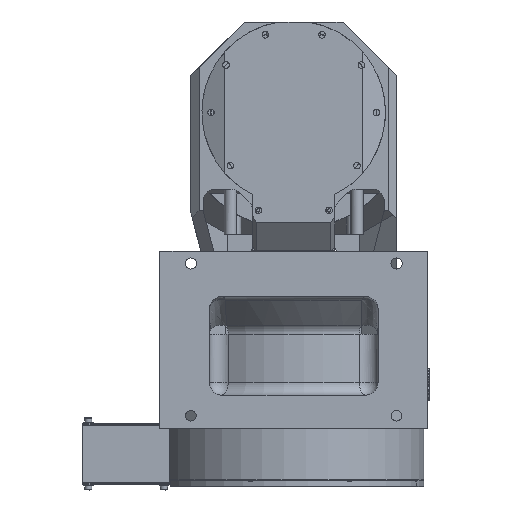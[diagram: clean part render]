
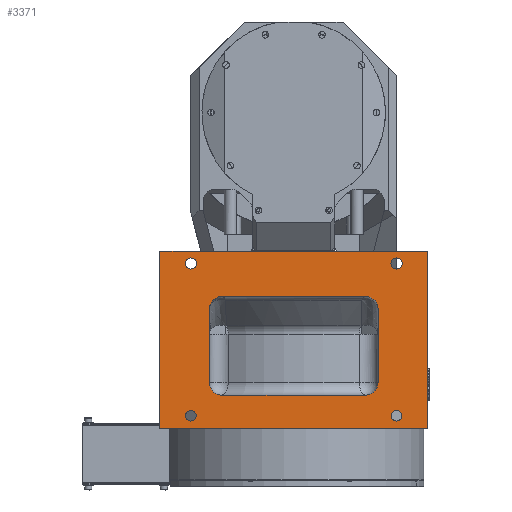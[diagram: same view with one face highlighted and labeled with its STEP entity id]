
A CAD part, front view. The second image highlights one B-rep face of the part: STEP entity #3371.
In plain terms, the highlighted planar face has unit normal (0, -1, 0).
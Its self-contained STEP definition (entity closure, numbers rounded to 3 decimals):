
#20 = ORIENTED_EDGE ( 'NONE', *, *, #26405, .T. ) ;
#233 = VECTOR ( 'NONE', #3927, 1000. ) ;
#297 = VERTEX_POINT ( 'NONE', #25285 ) ;
#1097 = EDGE_CURVE ( 'NONE', #22151, #22151, #4875, .T. ) ;
#1371 = ORIENTED_EDGE ( 'NONE', *, *, #27987, .F. ) ;
#1563 = CARTESIAN_POINT ( 'NONE',  ( -104., -235., -269. ) ) ;
#1583 = ORIENTED_EDGE ( 'NONE', *, *, #14601, .T. ) ;
#2663 = FACE_BOUND ( 'NONE', #31145, .T. ) ;
#2741 = CARTESIAN_POINT ( 'NONE',  ( 101., -235., -374. ) ) ;
#2865 = DIRECTION ( 'NONE',  ( 0., -1., 0. ) ) ;
#3242 = CARTESIAN_POINT ( 'NONE',  ( 86., -235., -359. ) ) ;
#3344 = CARTESIAN_POINT ( 'NONE',  ( 101., -235., -269. ) ) ;
#3371 = ADVANCED_FACE ( 'NONE', ( #24777, #40138, #33985, #12870, #2663, #34589 ), #3453, .T. ) ;
#3453 = PLANE ( 'NONE',  #8799 ) ;
#3532 = ORIENTED_EDGE ( 'NONE', *, *, #26534, .T. ) ;
#3677 = EDGE_LOOP ( 'NONE', ( #8069 ) ) ;
#3927 = DIRECTION ( 'NONE',  ( 0., 0., -1. ) ) ;
#3976 = EDGE_CURVE ( 'NONE', #28857, #38540, #4935, .T. ) ;
#4649 = DIRECTION ( 'NONE',  ( 0., 0., 1. ) ) ;
#4697 = DIRECTION ( 'NONE',  ( 0., 1., 0. ) ) ;
#4875 = CIRCLE ( 'NONE', #34937, 6.75 ) ;
#4905 = VERTEX_POINT ( 'NONE', #31876 ) ;
#4935 = CIRCLE ( 'NONE', #7525, 15. ) ;
#4953 = DIRECTION ( 'NONE',  ( -1., 0., 0. ) ) ;
#5015 = EDGE_CURVE ( 'NONE', #15491, #20306, #20190, .T. ) ;
#5025 = CIRCLE ( 'NONE', #15461, 6.75 ) ;
#5080 = ORIENTED_EDGE ( 'NONE', *, *, #28936, .T. ) ;
#5676 = CARTESIAN_POINT ( 'NONE',  ( 161., -235., -199. ) ) ;
#5773 = EDGE_CURVE ( 'NONE', #28857, #26293, #24144, .T. ) ;
#5780 = CARTESIAN_POINT ( 'NONE',  ( -126.5, -235., -214. ) ) ;
#5804 = DIRECTION ( 'NONE',  ( 0., 1., 0. ) ) ;
#5877 = VECTOR ( 'NONE', #31201, 1000. ) ;
#6200 = LINE ( 'NONE', #2741, #5877 ) ;
#6269 = CIRCLE ( 'NONE', #40318, 15. ) ;
#6689 = DIRECTION ( 'NONE',  ( 1., 0., 0. ) ) ;
#7222 = CARTESIAN_POINT ( 'NONE',  ( -104., -235., 41.356 ) ) ;
#7518 = ORIENTED_EDGE ( 'NONE', *, *, #20328, .T. ) ;
#7525 = AXIS2_PLACEMENT_3D ( 'NONE', #24223, #30372, #26899 ) ;
#8069 = ORIENTED_EDGE ( 'NONE', *, *, #34384, .T. ) ;
#8153 = ORIENTED_EDGE ( 'NONE', *, *, #10391, .T. ) ;
#8412 = CARTESIAN_POINT ( 'NONE',  ( -89., -235., -374. ) ) ;
#8799 = AXIS2_PLACEMENT_3D ( 'NONE', #9577, #2865, #40338 ) ;
#8964 = CARTESIAN_POINT ( 'NONE',  ( -89., -235., -254. ) ) ;
#9049 = CARTESIAN_POINT ( 'NONE',  ( -104., -235., -359. ) ) ;
#9054 = LINE ( 'NONE', #22777, #233 ) ;
#9427 = CARTESIAN_POINT ( 'NONE',  ( 123.5, -235., -207.25 ) ) ;
#9577 = CARTESIAN_POINT ( 'NONE',  ( -164., -235., -414. ) ) ;
#9904 = AXIS2_PLACEMENT_3D ( 'NONE', #15211, #5804, #24446 ) ;
#10083 = AXIS2_PLACEMENT_3D ( 'NONE', #10776, #35778, #4649 ) ;
#10391 = EDGE_CURVE ( 'NONE', #33520, #20306, #32601, .T. ) ;
#10776 = CARTESIAN_POINT ( 'NONE',  ( 123.5, -235., -399. ) ) ;
#10845 = VECTOR ( 'NONE', #17531, 1000. ) ;
#10860 = CARTESIAN_POINT ( 'NONE',  ( 161., -235., -414. ) ) ;
#11890 = AXIS2_PLACEMENT_3D ( 'NONE', #3242, #25554, #6689 ) ;
#12676 = CARTESIAN_POINT ( 'NONE',  ( -126.5, -235., -207.25 ) ) ;
#12710 = EDGE_CURVE ( 'NONE', #31419, #31174, #6269, .T. ) ;
#12870 = FACE_BOUND ( 'NONE', #3677, .T. ) ;
#13151 = DIRECTION ( 'NONE',  ( 1., 0., 0. ) ) ;
#13698 = ORIENTED_EDGE ( 'NONE', *, *, #5773, .F. ) ;
#13782 = CARTESIAN_POINT ( 'NONE',  ( -164., -235., -414. ) ) ;
#14122 = ORIENTED_EDGE ( 'NONE', *, *, #24732, .T. ) ;
#14152 = ORIENTED_EDGE ( 'NONE', *, *, #1097, .T. ) ;
#14154 = CARTESIAN_POINT ( 'NONE',  ( 402.35, -235., -199. ) ) ;
#14601 = EDGE_CURVE ( 'NONE', #15391, #33520, #19583, .T. ) ;
#15156 = CARTESIAN_POINT ( 'NONE',  ( -164., -235., -414. ) ) ;
#15211 = CARTESIAN_POINT ( 'NONE',  ( -126.5, -235., -399. ) ) ;
#15391 = VERTEX_POINT ( 'NONE', #10860 ) ;
#15461 = AXIS2_PLACEMENT_3D ( 'NONE', #5780, #18266, #30767 ) ;
#15491 = VERTEX_POINT ( 'NONE', #15156 ) ;
#16328 = DIRECTION ( 'NONE',  ( 1., 0., 0. ) ) ;
#17531 = DIRECTION ( 'NONE',  ( 0., 0., 1. ) ) ;
#18266 = DIRECTION ( 'NONE',  ( 0., 1., 0. ) ) ;
#18749 = VECTOR ( 'NONE', #39298, 1000. ) ;
#19440 = EDGE_LOOP ( 'NONE', ( #14152 ) ) ;
#19583 = LINE ( 'NONE', #29204, #36467 ) ;
#19703 = CARTESIAN_POINT ( 'NONE',  ( -89., -235., -359. ) ) ;
#19712 = DIRECTION ( 'NONE',  ( 0., 0., -1. ) ) ;
#19724 = ORIENTED_EDGE ( 'NONE', *, *, #5015, .F. ) ;
#20190 = LINE ( 'NONE', #26544, #10845 ) ;
#20306 = VERTEX_POINT ( 'NONE', #25756 ) ;
#20328 = EDGE_CURVE ( 'NONE', #4905, #21917, #23006, .T. ) ;
#20899 = EDGE_CURVE ( 'NONE', #26144, #26144, #34777, .T. ) ;
#21917 = VERTEX_POINT ( 'NONE', #32855 ) ;
#22151 = VERTEX_POINT ( 'NONE', #9427 ) ;
#22625 = EDGE_LOOP ( 'NONE', ( #25227 ) ) ;
#22777 = CARTESIAN_POINT ( 'NONE',  ( 101., -235., 41.356 ) ) ;
#23006 = CIRCLE ( 'NONE', #11890, 15. ) ;
#24144 = LINE ( 'NONE', #33356, #18749 ) ;
#24223 = CARTESIAN_POINT ( 'NONE',  ( 86., -235., -269. ) ) ;
#24446 = DIRECTION ( 'NONE',  ( 0., 0., 1. ) ) ;
#24732 = EDGE_CURVE ( 'NONE', #38540, #4905, #9054, .T. ) ;
#24777 = FACE_BOUND ( 'NONE', #22625, .T. ) ;
#24842 = ORIENTED_EDGE ( 'NONE', *, *, #38580, .T. ) ;
#25227 = ORIENTED_EDGE ( 'NONE', *, *, #20899, .T. ) ;
#25285 = CARTESIAN_POINT ( 'NONE',  ( 123.5, -235., -392.5 ) ) ;
#25554 = DIRECTION ( 'NONE',  ( 0., 1., 0. ) ) ;
#25756 = CARTESIAN_POINT ( 'NONE',  ( -164., -235., -199. ) ) ;
#25758 = DIRECTION ( 'NONE',  ( 0., 1., 0. ) ) ;
#25882 = DIRECTION ( 'NONE',  ( 1., 0., 0. ) ) ;
#26144 = VERTEX_POINT ( 'NONE', #32276 ) ;
#26293 = VERTEX_POINT ( 'NONE', #8964 ) ;
#26405 = EDGE_CURVE ( 'NONE', #30533, #26293, #30408, .T. ) ;
#26534 = EDGE_CURVE ( 'NONE', #297, #297, #39563, .T. ) ;
#26544 = CARTESIAN_POINT ( 'NONE',  ( -164., -235., -414. ) ) ;
#26899 = DIRECTION ( 'NONE',  ( 1., 0., 0. ) ) ;
#27987 = EDGE_CURVE ( 'NONE', #30533, #31174, #35285, .T. ) ;
#28532 = ORIENTED_EDGE ( 'NONE', *, *, #12710, .T. ) ;
#28857 = VERTEX_POINT ( 'NONE', #40443 ) ;
#28936 = EDGE_CURVE ( 'NONE', #15491, #15391, #32818, .T. ) ;
#28997 = DIRECTION ( 'NONE',  ( 0., 0., 1. ) ) ;
#29204 = CARTESIAN_POINT ( 'NONE',  ( 161., -235., -414. ) ) ;
#29468 = EDGE_LOOP ( 'NONE', ( #1583, #8153, #19724, #5080 ) ) ;
#29592 = VECTOR ( 'NONE', #4953, 1000. ) ;
#29677 = DIRECTION ( 'NONE',  ( 0., 0., 1. ) ) ;
#29726 = AXIS2_PLACEMENT_3D ( 'NONE', #31492, #25758, #16328 ) ;
#30372 = DIRECTION ( 'NONE',  ( 0., 1., 0. ) ) ;
#30408 = CIRCLE ( 'NONE', #29726, 15. ) ;
#30533 = VERTEX_POINT ( 'NONE', #1563 ) ;
#30767 = DIRECTION ( 'NONE',  ( 0., 0., 1. ) ) ;
#31145 = EDGE_LOOP ( 'NONE', ( #13698, #40195, #14122, #7518, #24842, #28532, #1371, #20 ) ) ;
#31174 = VERTEX_POINT ( 'NONE', #9049 ) ;
#31201 = DIRECTION ( 'NONE',  ( -1., 0., 0. ) ) ;
#31419 = VERTEX_POINT ( 'NONE', #8412 ) ;
#31492 = CARTESIAN_POINT ( 'NONE',  ( -89., -235., -269. ) ) ;
#31516 = VERTEX_POINT ( 'NONE', #12676 ) ;
#31876 = CARTESIAN_POINT ( 'NONE',  ( 101., -235., -359. ) ) ;
#32276 = CARTESIAN_POINT ( 'NONE',  ( -126.5, -235., -392.5 ) ) ;
#32601 = LINE ( 'NONE', #14154, #29592 ) ;
#32818 = LINE ( 'NONE', #13782, #38884 ) ;
#32855 = CARTESIAN_POINT ( 'NONE',  ( 86., -235., -374. ) ) ;
#33356 = CARTESIAN_POINT ( 'NONE',  ( 101., -235., -254. ) ) ;
#33520 = VERTEX_POINT ( 'NONE', #5676 ) ;
#33985 = FACE_BOUND ( 'NONE', #35868, .T. ) ;
#34384 = EDGE_CURVE ( 'NONE', #31516, #31516, #5025, .T. ) ;
#34589 = FACE_OUTER_BOUND ( 'NONE', #29468, .T. ) ;
#34777 = CIRCLE ( 'NONE', #9904, 6.5 ) ;
#34937 = AXIS2_PLACEMENT_3D ( 'NONE', #35221, #4697, #29677 ) ;
#35221 = CARTESIAN_POINT ( 'NONE',  ( 123.5, -235., -214. ) ) ;
#35285 = LINE ( 'NONE', #7222, #37499 ) ;
#35778 = DIRECTION ( 'NONE',  ( 0., 1., 0. ) ) ;
#35868 = EDGE_LOOP ( 'NONE', ( #3532 ) ) ;
#36459 = DIRECTION ( 'NONE',  ( 0., 1., 0. ) ) ;
#36467 = VECTOR ( 'NONE', #28997, 1000. ) ;
#37499 = VECTOR ( 'NONE', #19712, 1000. ) ;
#38540 = VERTEX_POINT ( 'NONE', #3344 ) ;
#38580 = EDGE_CURVE ( 'NONE', #21917, #31419, #6200, .T. ) ;
#38884 = VECTOR ( 'NONE', #25882, 1000. ) ;
#39298 = DIRECTION ( 'NONE',  ( -1., 0., 0. ) ) ;
#39563 = CIRCLE ( 'NONE', #10083, 6.5 ) ;
#40138 = FACE_BOUND ( 'NONE', #19440, .T. ) ;
#40195 = ORIENTED_EDGE ( 'NONE', *, *, #3976, .T. ) ;
#40318 = AXIS2_PLACEMENT_3D ( 'NONE', #19703, #36459, #13151 ) ;
#40338 = DIRECTION ( 'NONE',  ( 1., 0., 0. ) ) ;
#40443 = CARTESIAN_POINT ( 'NONE',  ( 86., -235., -254. ) ) ;
